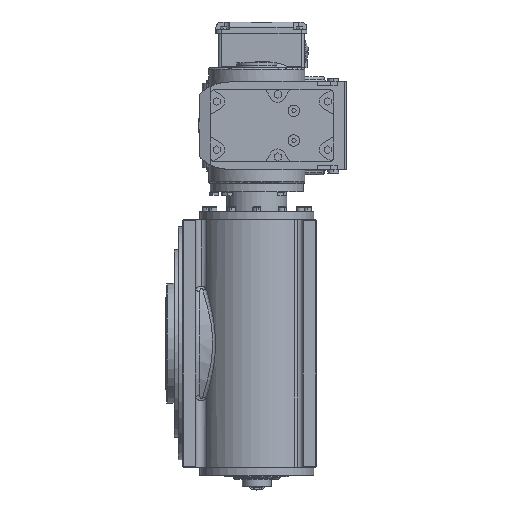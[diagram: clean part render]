
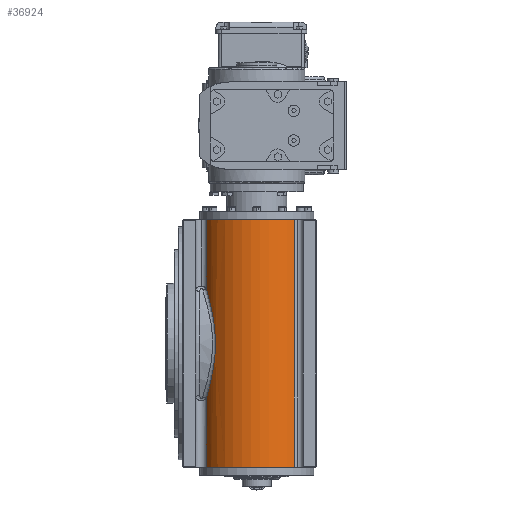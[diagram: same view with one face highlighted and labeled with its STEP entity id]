
A CAD part, left-side view. The second image highlights one B-rep face of the part: STEP entity #36924.
In plain terms, the highlighted cylindrical face has radius 71 mm (diameter 142 mm), a partial arc.
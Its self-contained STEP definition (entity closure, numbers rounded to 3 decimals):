
#1781 = CARTESIAN_POINT ( 'NONE',  ( -141.192, 127.924, -30.015 ) ) ;
#2260 = CARTESIAN_POINT ( 'NONE',  ( -140.598, 128.429, -32.922 ) ) ;
#2708 = CARTESIAN_POINT ( 'NONE',  ( -141.962, 127.251, -25.6 ) ) ;
#2920 = CARTESIAN_POINT ( 'NONE',  ( -128.109, 136.808, -68.859 ) ) ;
#3664 = AXIS2_PLACEMENT_3D ( 'NONE', #30890, #51701, #82173 ) ;
#4858 = VECTOR ( 'NONE', #76121, 1000. ) ;
#7042 = DIRECTION ( 'NONE',  ( 1., 0., 0. ) ) ;
#8744 = ORIENTED_EDGE ( 'NONE', *, *, #18274, .T. ) ;
#8832 = CARTESIAN_POINT ( 'NONE',  ( -143.2, 126.132, 16.387 ) ) ;
#8957 = EDGE_LOOP ( 'NONE', ( #25109, #56840, #8744, #49051, #27043, #64981 ) ) ;
#9248 = CARTESIAN_POINT ( 'NONE',  ( -148.721, 27.577, 154. ) ) ;
#9301 = CARTESIAN_POINT ( 'NONE',  ( -144.04, 125.343, -6.17 ) ) ;
#9815 = CARTESIAN_POINT ( 'NONE',  ( -148.721, 27.577, -154. ) ) ;
#11335 = CARTESIAN_POINT ( 'NONE',  ( -128.109, 136.808, 500000. ) ) ;
#15905 = CARTESIAN_POINT ( 'NONE',  ( -133.018, 134.012, 58.125 ) ) ;
#17370 = DIRECTION ( 'NONE',  ( 0., 0., 1. ) ) ;
#18274 = EDGE_CURVE ( 'NONE', #86203, #69506, #61787, .T. ) ;
#18590 = CIRCLE ( 'NONE', #42743, 71. ) ;
#21621 = VERTEX_POINT ( 'NONE', #61302 ) ;
#22536 = EDGE_CURVE ( 'NONE', #63175, #86203, #81208, .T. ) ;
#23999 = CARTESIAN_POINT ( 'NONE',  ( -128.109, 136.808, 68.859 ) ) ;
#24481 = CARTESIAN_POINT ( 'NONE',  ( -143.351, 125.993, 14.878 ) ) ;
#24948 = CARTESIAN_POINT ( 'NONE',  ( -143.967, 125.413, 5.846 ) ) ;
#25109 = ORIENTED_EDGE ( 'NONE', *, *, #26859, .F. ) ;
#26859 = EDGE_CURVE ( 'NONE', #63175, #21621, #67425, .T. ) ;
#27043 = ORIENTED_EDGE ( 'NONE', *, *, #73634, .T. ) ;
#27245 = EDGE_CURVE ( 'NONE', #69506, #51900, #18590, .T. ) ;
#30104 = CARTESIAN_POINT ( 'NONE',  ( -142.631, 126.653, -21.138 ) ) ;
#30890 = CARTESIAN_POINT ( 'NONE',  ( -95., 74., -154. ) ) ;
#31497 = CARTESIAN_POINT ( 'NONE',  ( -135.5, 132.319, 51.157 ) ) ;
#31980 = CARTESIAN_POINT ( 'NONE',  ( -143.607, 125.753, 11.865 ) ) ;
#32769 = CARTESIAN_POINT ( 'NONE',  ( -148.721, 27.577, -154. ) ) ;
#36924 = ADVANCED_FACE ( 'NONE', ( #87339 ), #60086, .T. ) ;
#37660 = CARTESIAN_POINT ( 'NONE',  ( -143.713, 125.653, 10.36 ) ) ;
#38127 = CARTESIAN_POINT ( 'NONE',  ( -132.999, 134.023, -58.167 ) ) ;
#38610 = CARTESIAN_POINT ( 'NONE',  ( -142.199, 127.041, -24.119 ) ) ;
#38757 = VERTEX_POINT ( 'NONE', #9248 ) ;
#38771 = DIRECTION ( 'NONE',  ( 0., 0., -1. ) ) ;
#38956 = AXIS2_PLACEMENT_3D ( 'NONE', #80711, #65708, #80237 ) ;
#42030 = EDGE_CURVE ( 'NONE', #21621, #38757, #88463, .T. ) ;
#42743 = AXIS2_PLACEMENT_3D ( 'NONE', #42881, #71652, #7042 ) ;
#42881 = CARTESIAN_POINT ( 'NONE',  ( -95., 74., -154. ) ) ;
#44734 = CARTESIAN_POINT ( 'NONE',  ( -135.977, 131.984, 49.755 ) ) ;
#49051 = ORIENTED_EDGE ( 'NONE', *, *, #27245, .T. ) ;
#51701 = DIRECTION ( 'NONE',  ( 0., 0., 1. ) ) ;
#51900 = VERTEX_POINT ( 'NONE', #9815 ) ;
#52024 = VECTOR ( 'NONE', #17370, 1000. ) ;
#53183 = CARTESIAN_POINT ( 'NONE',  ( -138.584, 130.076, -41.542 ) ) ;
#53655 = CARTESIAN_POINT ( 'NONE',  ( -130.722, 135.43, -63.561 ) ) ;
#56840 = ORIENTED_EDGE ( 'NONE', *, *, #22536, .T. ) ;
#58047 = CARTESIAN_POINT ( 'NONE',  ( -128.109, 136.808, 68.859 ) ) ;
#58852 = CARTESIAN_POINT ( 'NONE',  ( -136.93, 131.346, -47.157 ) ) ;
#59846 = CARTESIAN_POINT ( 'NONE',  ( -128.109, 136.808, -500000. ) ) ;
#60086 = CYLINDRICAL_SURFACE ( 'NONE', #3664, 71. ) ;
#60242 = CARTESIAN_POINT ( 'NONE',  ( -142.345, 126.918, 23.884 ) ) ;
#60708 = CARTESIAN_POINT ( 'NONE',  ( -130.725, 135.429, 63.555 ) ) ;
#61302 = CARTESIAN_POINT ( 'NONE',  ( -128.109, 136.808, 154. ) ) ;
#61787 = LINE ( 'NONE', #11335, #64462 ) ;
#63175 = VERTEX_POINT ( 'NONE', #58047 ) ;
#64462 = VECTOR ( 'NONE', #38771, 1000. ) ;
#64684 = CARTESIAN_POINT ( 'NONE',  ( -128.109, 136.808, -154. ) ) ;
#64981 = ORIENTED_EDGE ( 'NONE', *, *, #42030, .F. ) ;
#65708 = DIRECTION ( 'NONE',  ( 0., 0., 1. ) ) ;
#66429 = CARTESIAN_POINT ( 'NONE',  ( -144.049, 125.334, 2.839 ) ) ;
#66888 = CARTESIAN_POINT ( 'NONE',  ( -143.692, 125.681, -12.164 ) ) ;
#67425 = LINE ( 'NONE', #59846, #52024 ) ;
#67813 = CARTESIAN_POINT ( 'NONE',  ( -138.57, 130.069, 41.275 ) ) ;
#69506 = VERTEX_POINT ( 'NONE', #64684 ) ;
#71652 = DIRECTION ( 'NONE',  ( 0., 0., 1. ) ) ;
#73634 = EDGE_CURVE ( 'NONE', #51900, #38757, #83128, .T. ) ;
#73933 = CARTESIAN_POINT ( 'NONE',  ( -136.889, 131.329, 46.942 ) ) ;
#74390 = CARTESIAN_POINT ( 'NONE',  ( -141.327, 127.831, 29.758 ) ) ;
#76121 = DIRECTION ( 'NONE',  ( 0., 0., 1. ) ) ;
#80237 = DIRECTION ( 'NONE',  ( 1., 0., 0. ) ) ;
#80711 = CARTESIAN_POINT ( 'NONE',  ( -95., 74., 154. ) ) ;
#81208 = B_SPLINE_CURVE_WITH_KNOTS ( 'NONE', 3,
 ( #23999, #60708, #15905, #31497, #44734, #73933, #81870, #67813, #89331, #74390, #60242, #8832, #24481, #31980, #37660, #24948, #66429, #9301, #66888, #81408, #30104, #38610, #2708, #1781, #2260, #53183, #58852, #38127, #53655, #87486 ),
 .UNSPECIFIED., .F., .F.,
 ( 4, 2, 2, 2, 2, 2, 2, 2, 2, 2, 2, 2, 2, 2, 4 ),
 ( 0., 0.018, 0.023, 0.027, 0.036, 0.055, 0.059, 0.064, 0.073, 0.091, 0.095, 0.1, 0.109, 0.127, 0.145 ),
 .UNSPECIFIED. ) ;
#81408 = CARTESIAN_POINT ( 'NONE',  ( -142.826, 126.476, -19.641 ) ) ;
#81870 = CARTESIAN_POINT ( 'NONE',  ( -137.325, 131.008, 45.529 ) ) ;
#82173 = DIRECTION ( 'NONE',  ( 1., 0., 0. ) ) ;
#83128 = LINE ( 'NONE', #32769, #4858 ) ;
#86203 = VERTEX_POINT ( 'NONE', #2920 ) ;
#87339 = FACE_OUTER_BOUND ( 'NONE', #8957, .T. ) ;
#87486 = CARTESIAN_POINT ( 'NONE',  ( -128.109, 136.808, -68.859 ) ) ;
#88463 = CIRCLE ( 'NONE', #38956, 71. ) ;
#89331 = CARTESIAN_POINT ( 'NONE',  ( -139.32, 129.475, 38.415 ) ) ;
